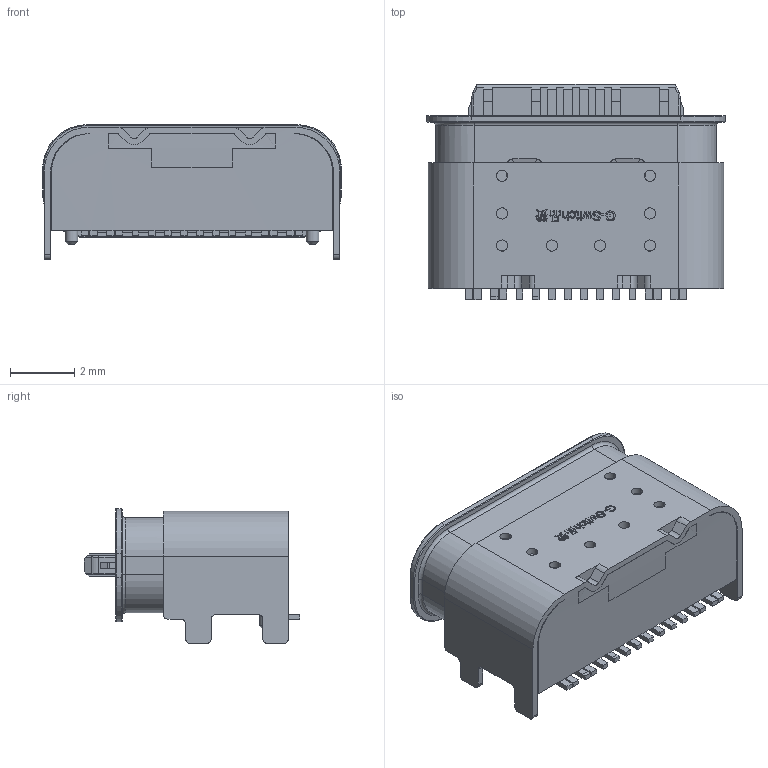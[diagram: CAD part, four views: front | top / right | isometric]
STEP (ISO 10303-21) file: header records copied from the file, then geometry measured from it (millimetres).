
FILE_DESCRIPTION (( 'STEP AP203' ), '1' );
FILE_NAME ('GT-USB-9079C.STEP', '2025-02-27T08:55:20', ( '' ), ( '' ), 'SwSTEP 2.0', 'SolidWorks 2023', '' );
FILE_SCHEMA (( 'CONFIG_CONTROL_DESIGN' ));
Length unit declared in the file: millimetre
Products named in the file (1): GT-USB-9079C
Bounding box: 9.3 x 6.7 x 4.19 mm (x, y, z)
Volume: 98.4 mm3; surface area: 431.3 mm2
Topology: 1 solids, 10 shells, 1154 faces, 3140 edges, 1986 vertices
Faces by surface type: plane 667, cylinder 291, bspline 104, torus 32, sphere 32, cone 28
Entity records: 40538 total; most frequent: CARTESIAN_POINT 12453, ORIENTED_EDGE 6216, DIRECTION 5289, EDGE_CURVE 3108, LINE 2037, VECTOR 2037, VERTEX_POINT 1986, AXIS2_PLACEMENT_3D 1626
